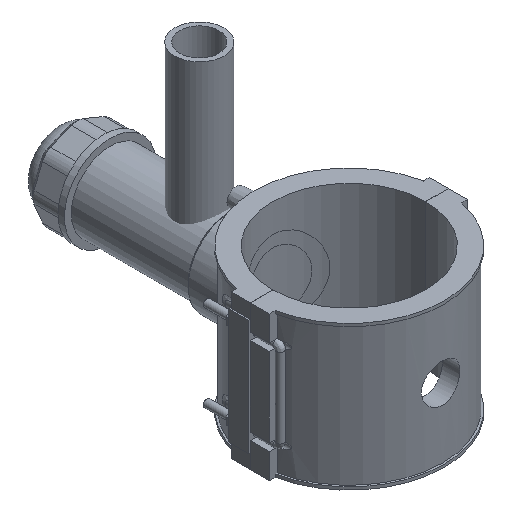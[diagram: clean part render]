
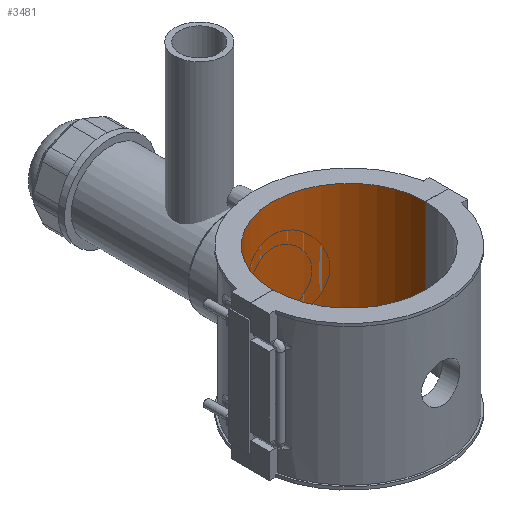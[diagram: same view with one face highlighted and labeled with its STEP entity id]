
A CAD part, isometric view. The second image highlights one B-rep face of the part: STEP entity #3481.
In plain terms, the highlighted cylindrical face has radius 62.5 mm (diameter 125 mm), a partial arc.
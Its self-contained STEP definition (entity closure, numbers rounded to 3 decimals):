
#271=CIRCLE('',#3772,62.5);
#272=CIRCLE('',#3774,62.5);
#460=FACE_OUTER_BOUND('',#681,.T.);
#681=EDGE_LOOP('',(#2920,#2921,#2922,#2923));
#934=LINE('',#6466,#1238);
#968=LINE('',#6779,#1272);
#1238=VECTOR('',#4361,10.);
#1272=VECTOR('',#4497,10.);
#1629=VERTEX_POINT('',#6463);
#1630=VERTEX_POINT('',#6465);
#1665=VERTEX_POINT('',#6776);
#1666=VERTEX_POINT('',#6778);
#2045=EDGE_CURVE('',#1630,#1629,#934,.T.);
#2109=EDGE_CURVE('',#1666,#1665,#968,.T.);
#2112=EDGE_CURVE('',#1630,#1665,#271,.T.);
#2113=EDGE_CURVE('',#1666,#1629,#272,.T.);
#2920=ORIENTED_EDGE('',*,*,#2109,.T.);
#2921=ORIENTED_EDGE('',*,*,#2112,.F.);
#2922=ORIENTED_EDGE('',*,*,#2045,.T.);
#2923=ORIENTED_EDGE('',*,*,#2113,.F.);
#3337=CYLINDRICAL_SURFACE('',#3775,62.5);
#3481=ADVANCED_FACE('',(#460),#3337,.F.);
#3772=AXIS2_PLACEMENT_3D('',#6784,#4502,#4503);
#3774=AXIS2_PLACEMENT_3D('',#6786,#4506,#4507);
#3775=AXIS2_PLACEMENT_3D('',#6789,#4510,#4511);
#4361=DIRECTION('',(0.,0.,-1.));
#4497=DIRECTION('',(0.,0.,1.));
#4502=DIRECTION('center_axis',(0.,0.,-1.));
#4503=DIRECTION('ref_axis',(-1.,0.,0.));
#4506=DIRECTION('center_axis',(0.,0.,1.));
#4507=DIRECTION('ref_axis',(-1.,0.,0.));
#4510=DIRECTION('center_axis',(0.,0.,1.));
#4511=DIRECTION('ref_axis',(-1.,0.,0.));
#6463=CARTESIAN_POINT('',(-62.5,0.05,-59.));
#6465=CARTESIAN_POINT('',(-62.5,0.05,59.));
#6466=CARTESIAN_POINT('',(-62.5,0.05,0.));
#6776=CARTESIAN_POINT('',(62.5,0.05,59.));
#6778=CARTESIAN_POINT('',(62.5,0.05,-59.));
#6779=CARTESIAN_POINT('',(62.5,0.05,0.));
#6784=CARTESIAN_POINT('Origin',(0.,0.,59.));
#6786=CARTESIAN_POINT('Origin',(0.,0.,-59.));
#6789=CARTESIAN_POINT('Origin',(0.,0.,0.));
